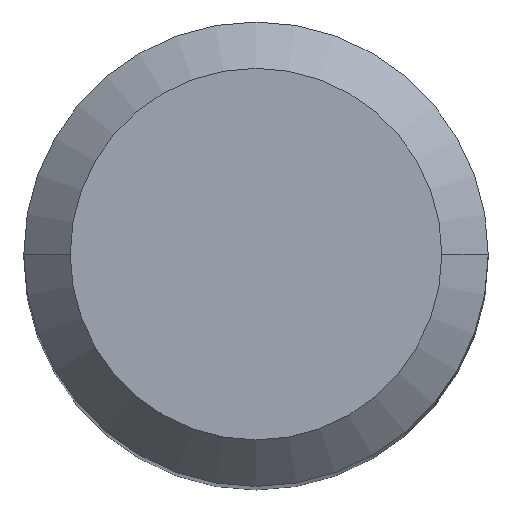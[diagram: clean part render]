
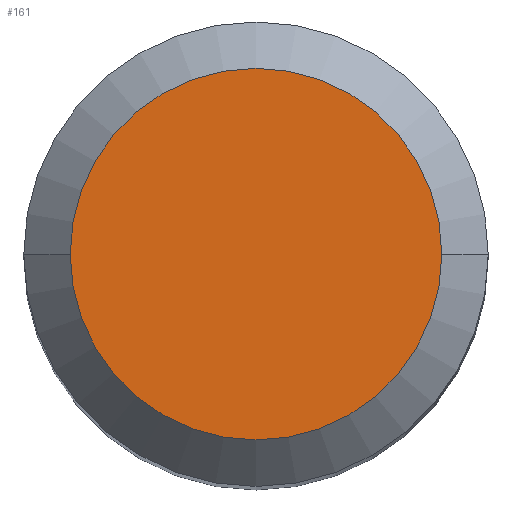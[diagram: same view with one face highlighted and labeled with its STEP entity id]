
A CAD part, top view. The second image highlights one B-rep face of the part: STEP entity #161.
In plain terms, the highlighted planar face has unit normal (0, 0, 1).
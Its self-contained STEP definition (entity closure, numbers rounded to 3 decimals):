
#27 = CARTESIAN_POINT ( 'NONE',  ( 0., 0., 0. ) ) ;
#52 = DIRECTION ( 'NONE',  ( 1., 0., 0. ) ) ;
#62 = DIRECTION ( 'NONE',  ( 0., 0., -1. ) ) ;
#65 = ORIENTED_EDGE ( 'NONE', *, *, #305, .F. ) ;
#73 = DIRECTION ( 'NONE',  ( -1., 0., 0. ) ) ;
#92 = EDGE_CURVE ( 'NONE', #519, #100, #508, .T. ) ;
#100 = VERTEX_POINT ( 'NONE', #485 ) ;
#142 = ORIENTED_EDGE ( 'NONE', *, *, #92, .F. ) ;
#161 = ADVANCED_FACE ( 'NONE', ( #431 ), #477, .T. ) ;
#176 = CIRCLE ( 'NONE', #212, 3.2 ) ;
#195 = CARTESIAN_POINT ( 'NONE',  ( -3.2, 0., 0. ) ) ;
#212 = AXIS2_PLACEMENT_3D ( 'NONE', #274, #62, #447 ) ;
#274 = CARTESIAN_POINT ( 'NONE',  ( 0., 0., 0. ) ) ;
#275 = AXIS2_PLACEMENT_3D ( 'NONE', #386, #316, #52 ) ;
#305 = EDGE_CURVE ( 'NONE', #100, #519, #176, .T. ) ;
#316 = DIRECTION ( 'NONE',  ( 0., 0., 1. ) ) ;
#358 = EDGE_LOOP ( 'NONE', ( #142, #65 ) ) ;
#386 = CARTESIAN_POINT ( 'NONE',  ( 0., 3.2, 0. ) ) ;
#390 = AXIS2_PLACEMENT_3D ( 'NONE', #27, #455, #73 ) ;
#431 = FACE_OUTER_BOUND ( 'NONE', #358, .T. ) ;
#447 = DIRECTION ( 'NONE',  ( -1., 0., 0. ) ) ;
#455 = DIRECTION ( 'NONE',  ( 0., 0., -1. ) ) ;
#477 = PLANE ( 'NONE',  #275 ) ;
#485 = CARTESIAN_POINT ( 'NONE',  ( 3.2, 0., 0. ) ) ;
#508 = CIRCLE ( 'NONE', #390, 3.2 ) ;
#519 = VERTEX_POINT ( 'NONE', #195 ) ;
